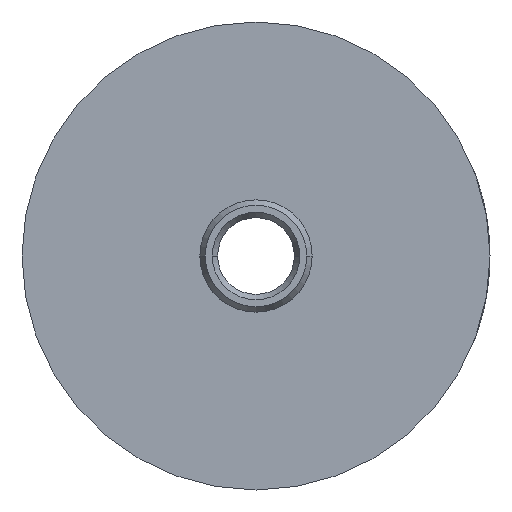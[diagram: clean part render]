
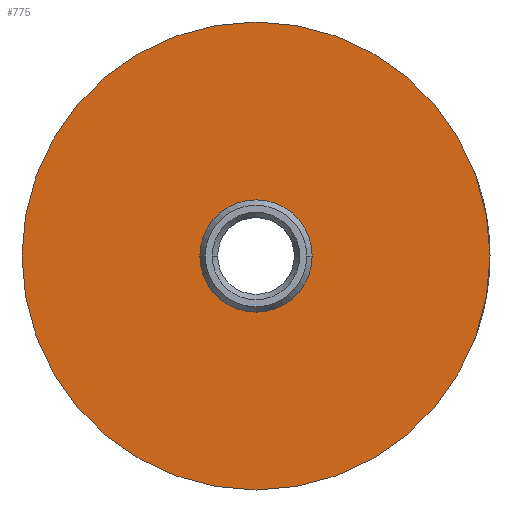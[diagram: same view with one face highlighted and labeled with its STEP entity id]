
A CAD part, front view. The second image highlights one B-rep face of the part: STEP entity #775.
In plain terms, the highlighted planar face has unit normal (0, -1, 0).
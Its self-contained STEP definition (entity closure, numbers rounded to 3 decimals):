
#43 = CIRCLE ( 'NONE', #128, 25. ) ;
#84 = FACE_OUTER_BOUND ( 'NONE', #197, .T. ) ;
#128 = AXIS2_PLACEMENT_3D ( 'NONE', #1669, #1949, #1945 ) ;
#145 = DIRECTION ( 'NONE',  ( 0., 0., 1. ) ) ;
#197 = EDGE_LOOP ( 'NONE', ( #581, #569 ) ) ;
#199 = VERTEX_POINT ( 'NONE', #1864 ) ;
#229 = EDGE_CURVE ( 'NONE', #199, #1636, #247, .T. ) ;
#235 = AXIS2_PLACEMENT_3D ( 'NONE', #470, #1627, #626 ) ;
#247 = CIRCLE ( 'NONE', #1486, 25. ) ;
#293 = DIRECTION ( 'NONE',  ( 0., 1., 0. ) ) ;
#375 = EDGE_CURVE ( 'NONE', #1636, #199, #43, .T. ) ;
#379 = DIRECTION ( 'NONE',  ( 0., 1., 0. ) ) ;
#465 = PLANE ( 'NONE',  #473 ) ;
#470 = CARTESIAN_POINT ( 'NONE',  ( 0., 0., 0. ) ) ;
#473 = AXIS2_PLACEMENT_3D ( 'NONE', #475, #505, #145 ) ;
#475 = CARTESIAN_POINT ( 'NONE',  ( 6., 0., 0. ) ) ;
#505 = DIRECTION ( 'NONE',  ( 0., 1., 0. ) ) ;
#515 = VERTEX_POINT ( 'NONE', #1430 ) ;
#535 = CARTESIAN_POINT ( 'NONE',  ( 0., 0., 0. ) ) ;
#569 = ORIENTED_EDGE ( 'NONE', *, *, #375, .F. ) ;
#581 = ORIENTED_EDGE ( 'NONE', *, *, #229, .F. ) ;
#626 = DIRECTION ( 'NONE',  ( 0., 0., 1. ) ) ;
#679 = DIRECTION ( 'NONE',  ( 0., 0., 1. ) ) ;
#775 = ADVANCED_FACE ( 'NONE', ( #84, #1463 ), #465, .F. ) ;
#884 = CARTESIAN_POINT ( 'NONE',  ( 0., 0., -25. ) ) ;
#1006 = CIRCLE ( 'NONE', #235, 6. ) ;
#1007 = ORIENTED_EDGE ( 'NONE', *, *, #1764, .T. ) ;
#1111 = ORIENTED_EDGE ( 'NONE', *, *, #1792, .T. ) ;
#1288 = CARTESIAN_POINT ( 'NONE',  ( 0., 0., 0. ) ) ;
#1317 = EDGE_LOOP ( 'NONE', ( #1111, #1007 ) ) ;
#1430 = CARTESIAN_POINT ( 'NONE',  ( 0., 0., 6. ) ) ;
#1463 = FACE_BOUND ( 'NONE', #1317, .T. ) ;
#1464 = DIRECTION ( 'NONE',  ( 0., 0., 1. ) ) ;
#1486 = AXIS2_PLACEMENT_3D ( 'NONE', #535, #379, #679 ) ;
#1612 = CIRCLE ( 'NONE', #2064, 6. ) ;
#1627 = DIRECTION ( 'NONE',  ( 0., 1., 0. ) ) ;
#1636 = VERTEX_POINT ( 'NONE', #884 ) ;
#1669 = CARTESIAN_POINT ( 'NONE',  ( 0., 0., 0. ) ) ;
#1694 = VERTEX_POINT ( 'NONE', #2105 ) ;
#1764 = EDGE_CURVE ( 'NONE', #1694, #515, #1612, .T. ) ;
#1792 = EDGE_CURVE ( 'NONE', #515, #1694, #1006, .T. ) ;
#1864 = CARTESIAN_POINT ( 'NONE',  ( 0., 0., 25. ) ) ;
#1945 = DIRECTION ( 'NONE',  ( 0., 0., 1. ) ) ;
#1949 = DIRECTION ( 'NONE',  ( 0., 1., 0. ) ) ;
#2064 = AXIS2_PLACEMENT_3D ( 'NONE', #1288, #293, #1464 ) ;
#2105 = CARTESIAN_POINT ( 'NONE',  ( 0., 0., -6. ) ) ;
